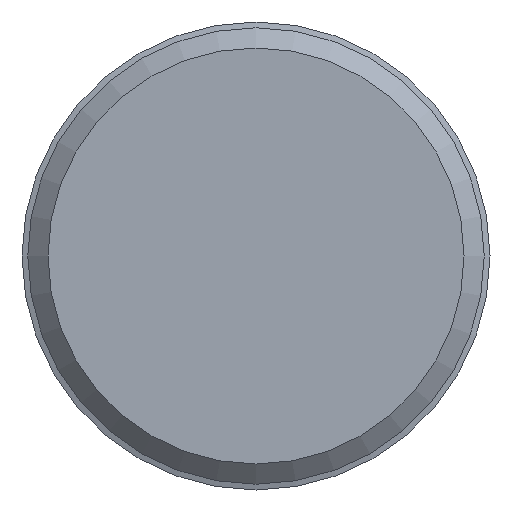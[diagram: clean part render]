
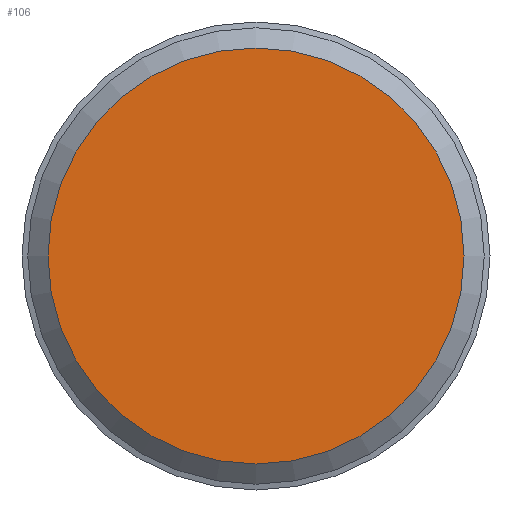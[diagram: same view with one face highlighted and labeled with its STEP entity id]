
A CAD part, front view. The second image highlights one B-rep face of the part: STEP entity #106.
In plain terms, the highlighted planar face has unit normal (0, -1, 0).
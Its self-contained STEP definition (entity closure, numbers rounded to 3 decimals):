
#29=FACE_OUTER_BOUND('',#39,.T.);
#39=EDGE_LOOP('',(#84));
#57=CIRCLE('',#125,2.);
#66=VERTEX_POINT('',#185);
#75=EDGE_CURVE('',#66,#66,#57,.T.);
#84=ORIENTED_EDGE('',*,*,#75,.F.);
#102=PLANE('',#124);
#106=ADVANCED_FACE('',(#29),#102,.T.);
#124=AXIS2_PLACEMENT_3D('',#184,#145,#146);
#125=AXIS2_PLACEMENT_3D('',#186,#147,#148);
#145=DIRECTION('center_axis',(0.,-1.,0.));
#146=DIRECTION('ref_axis',(0.,0.,-1.));
#147=DIRECTION('center_axis',(0.,1.,0.));
#148=DIRECTION('ref_axis',(-1.,0.,0.));
#184=CARTESIAN_POINT('Origin',(-1.,0.,0.));
#185=CARTESIAN_POINT('',(-2.,0.,0.));
#186=CARTESIAN_POINT('Origin',(0.,0.,0.));
